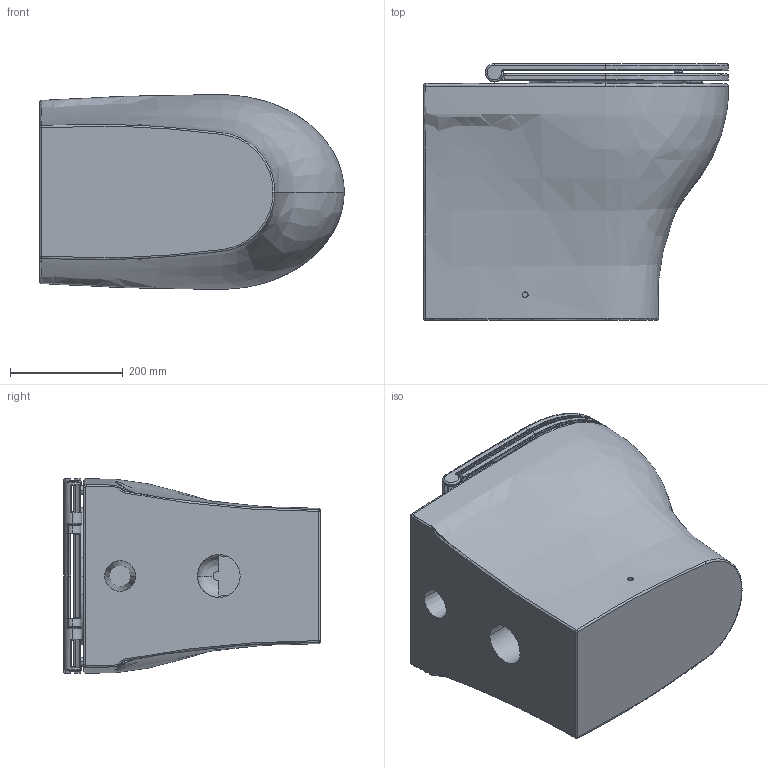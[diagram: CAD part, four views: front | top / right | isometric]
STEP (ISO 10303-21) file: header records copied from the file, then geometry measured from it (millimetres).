
FILE_DESCRIPTION (( 'STEP AP203' ), '1' );
FILE_NAME ('PAVCTP000000.STEP', '2019-05-27T08:52:20', ( '' ), ( '' ), 'SwSTEP 2.0', 'SolidWorks 2019', '' );
FILE_SCHEMA (( 'CONFIG_CONTROL_DESIGN' ));
Length unit declared in the file: millimetre
Products named in the file (5): PRAI800coperchio; PRA1800ciambella; PRA1800; PAVCTP000000; PRA 110
Assembly tree (4 placements, depth 3):
  PAVCTP000000
    PRA 110
    PRA1800
      PRAI800coperchio
      PRA1800ciambella
Bounding box: 540.26 x 455 x 345.29 mm (x, y, z)
Volume: 39001233.3 mm3; surface area: 1625404.1 mm2
Topology: 3 solids, 3 shells, 507 faces, 1216 edges, 718 vertices
Faces by surface type: bspline 173, cylinder 142, torus 120, plane 58, cone 8, sphere 6
Entity records: 37259 total; most frequent: CARTESIAN_POINT 26054, ORIENTED_EDGE 2408, DIRECTION 2090, EDGE_CURVE 1204, AXIS2_PLACEMENT_3D 916, VERTEX_POINT 718, CIRCLE 574, EDGE_LOOP 530
